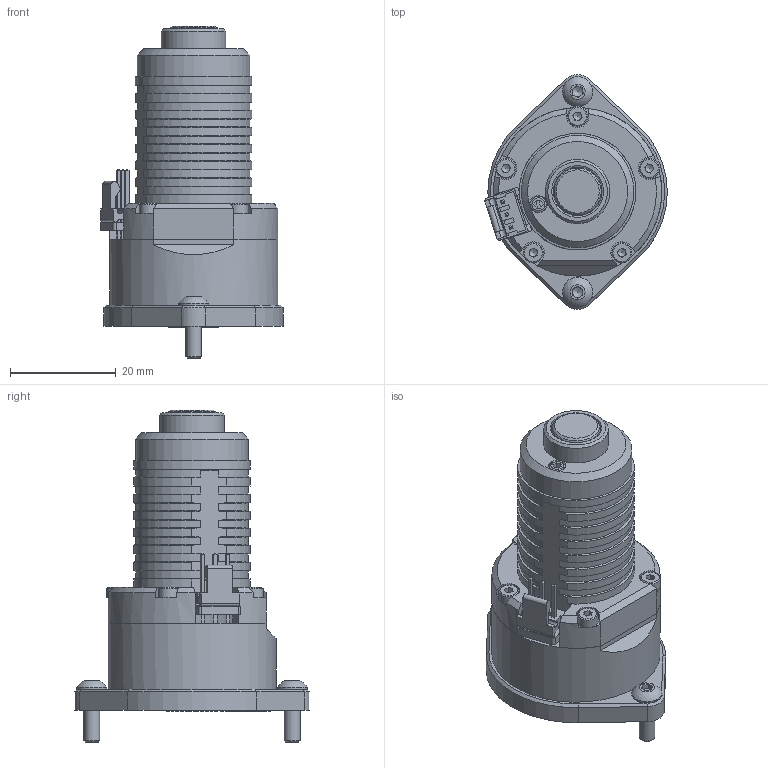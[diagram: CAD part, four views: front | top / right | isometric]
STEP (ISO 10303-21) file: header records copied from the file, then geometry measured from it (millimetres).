
FILE_DESCRIPTION (( 'STEP AP214' ), '1' );
FILE_NAME ('M510M REV 1.STEP', '2016-11-25T12:23:13', ( 'DELL' ), ( '' ), 'SwSTEP 2.0', 'SolidWorks 2016', '' );
FILE_SCHEMA (( 'AUTOMOTIVE_DESIGN' ));
Length unit declared in the file: millimetre
Products named in the file (1): M510M REV 1
Bounding box: 34.6 x 44.48 x 62.9 mm (x, y, z)
Surface area: 11607.8 mm2 (no closed solid volume)
Topology: 0 solids, 36 shells, 368 faces, 1148 edges, 792 vertices
Faces by surface type: plane 233, cylinder 67, cone 61, torus 5, sphere 2
Full cylindrical faces by diameter (mm): 1 x2, 3 x2, 3.2 x2, 3.8 x5, 4.4 x5, 5.7 x2, 8 x4, 9.2 x1, 9.8 x1, 10 x2, 12.2 x1, 21.3 x2, 22.1 x1, 23.6 x1, 31.9 x1
Entity records: 16367 total; most frequent: CARTESIAN_POINT 2417, DIRECTION 2085, ORIENTED_EDGE 1741, EDGE_CURVE 1058, VERTEX_POINT 769, AXIS2_PLACEMENT_3D 709, VECTOR 667, LINE 667
